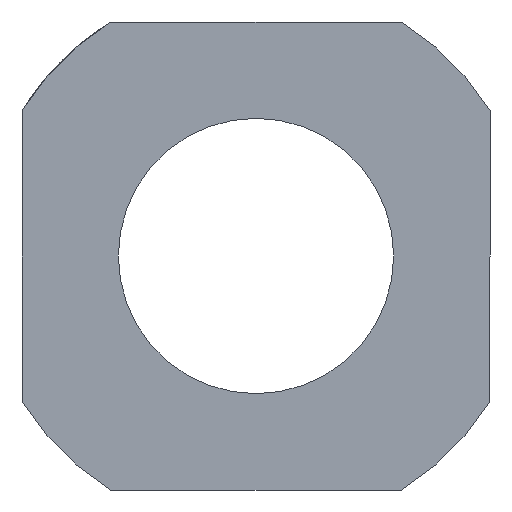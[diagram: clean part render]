
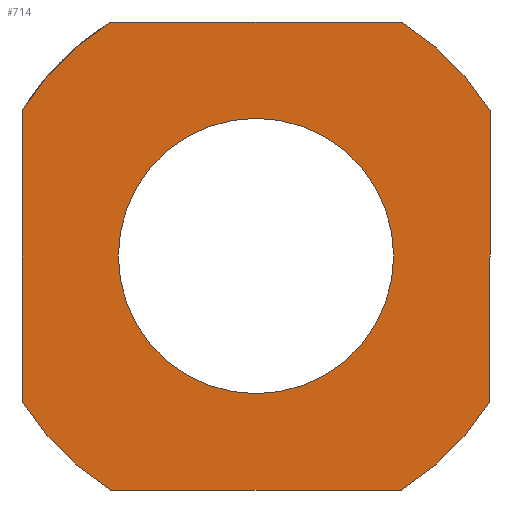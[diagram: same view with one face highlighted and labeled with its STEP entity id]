
A CAD part, left-side view. The second image highlights one B-rep face of the part: STEP entity #714.
In plain terms, the highlighted planar face has unit normal (-1, 0, 0).
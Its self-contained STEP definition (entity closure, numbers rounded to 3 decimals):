
#409=CARTESIAN_POINT('',(0.0,-5.0,0.0));
#410=VERTEX_POINT('',#409);
#411=CARTESIAN_POINT('',(0.0,0.0,0.0));
#412=DIRECTION('',(1.0,0.0,0.0));
#413=DIRECTION('',(0.0,-1.0,0.0));
#414=AXIS2_PLACEMENT_3D('',#411,#412,#413);
#415=CIRCLE('',#414,5.0);
#416=EDGE_CURVE('',#410,#410,#415,.T.);
#436=CARTESIAN_POINT('',(0.0,5.268,8.5));
#437=VERTEX_POINT('',#436);
#444=CARTESIAN_POINT('',(0.0,-5.268,8.5));
#445=VERTEX_POINT('',#444);
#446=CARTESIAN_POINT('',(0.0,-5.268,8.5));
#447=DIRECTION('',(0.0,1.0,0.0));
#448=VECTOR('',#447,10.536);
#449=LINE('',#446,#448);
#450=EDGE_CURVE('',#445,#437,#449,.T.);
#476=CARTESIAN_POINT('',(0.0,-5.268,-8.5));
#477=VERTEX_POINT('',#476);
#484=CARTESIAN_POINT('',(0.0,5.268,-8.5));
#485=VERTEX_POINT('',#484);
#486=CARTESIAN_POINT('',(0.0,5.268,-8.5));
#487=DIRECTION('',(0.0,-1.0,0.0));
#488=VECTOR('',#487,10.536);
#489=LINE('',#486,#488);
#490=EDGE_CURVE('',#485,#477,#489,.T.);
#516=CARTESIAN_POINT('',(0.0,-8.5,5.268));
#517=VERTEX_POINT('',#516);
#524=CARTESIAN_POINT('',(0.0,-8.5,-5.268));
#525=VERTEX_POINT('',#524);
#526=CARTESIAN_POINT('',(0.0,-8.5,-5.268));
#527=DIRECTION('',(0.0,0.0,1.0));
#528=VECTOR('',#527,10.536);
#529=LINE('',#526,#528);
#530=EDGE_CURVE('',#525,#517,#529,.T.);
#556=CARTESIAN_POINT('',(0.0,8.5,-5.268));
#557=VERTEX_POINT('',#556);
#564=CARTESIAN_POINT('',(0.0,8.5,5.268));
#565=VERTEX_POINT('',#564);
#566=CARTESIAN_POINT('',(0.0,8.5,5.268));
#567=DIRECTION('',(0.0,0.0,-1.0));
#568=VECTOR('',#567,10.536);
#569=LINE('',#566,#568);
#570=EDGE_CURVE('',#565,#557,#569,.T.);
#587=CARTESIAN_POINT('',(0.0,0.0,0.0));
#588=DIRECTION('',(1.0,0.0,0.0));
#589=DIRECTION('',(0.0,1.0,0.0));
#590=AXIS2_PLACEMENT_3D('',#587,#588,#589);
#591=CIRCLE('',#590,10.0);
#592=EDGE_CURVE('',#485,#557,#591,.T.);
#619=CARTESIAN_POINT('',(0.0,0.0,0.0));
#620=DIRECTION('',(1.0,0.0,0.0));
#621=DIRECTION('',(0.0,1.0,0.0));
#622=AXIS2_PLACEMENT_3D('',#619,#620,#621);
#623=CIRCLE('',#622,10.0);
#624=EDGE_CURVE('',#525,#477,#623,.T.);
#643=CARTESIAN_POINT('',(0.0,0.0,0.0));
#644=DIRECTION('',(1.0,0.0,0.0));
#645=DIRECTION('',(0.0,1.0,0.0));
#646=AXIS2_PLACEMENT_3D('',#643,#644,#645);
#647=CIRCLE('',#646,10.0);
#648=EDGE_CURVE('',#565,#437,#647,.T.);
#690=CARTESIAN_POINT('',(0.0,5.0,0.0));
#691=DIRECTION('',(-1.0,0.0,0.0));
#692=DIRECTION('',(0.0,0.0,1.0));
#693=AXIS2_PLACEMENT_3D('',#690,#691,#692);
#694=PLANE('',#693);
#695=ORIENTED_EDGE('',*,*,#450,.T.);
#696=ORIENTED_EDGE('',*,*,#648,.F.);
#697=ORIENTED_EDGE('',*,*,#570,.T.);
#698=ORIENTED_EDGE('',*,*,#592,.F.);
#699=ORIENTED_EDGE('',*,*,#490,.T.);
#700=ORIENTED_EDGE('',*,*,#624,.F.);
#701=ORIENTED_EDGE('',*,*,#530,.T.);
#702=CARTESIAN_POINT('',(0.0,0.0,0.0));
#703=DIRECTION('',(1.0,0.0,0.0));
#704=DIRECTION('',(0.0,1.0,0.0));
#705=AXIS2_PLACEMENT_3D('',#702,#703,#704);
#706=CIRCLE('',#705,10.0);
#707=EDGE_CURVE('',#445,#517,#706,.T.);
#708=ORIENTED_EDGE('',*,*,#707,.F.);
#709=EDGE_LOOP('',(#695,#696,#697,#698,#699,#700,#701,#708));
#710=FACE_OUTER_BOUND('',#709,.T.);
#711=ORIENTED_EDGE('',*,*,#416,.T.);
#712=EDGE_LOOP('',(#711));
#713=FACE_BOUND('',#712,.T.);
#714=ADVANCED_FACE('',(#710,#713),#694,.T.);
